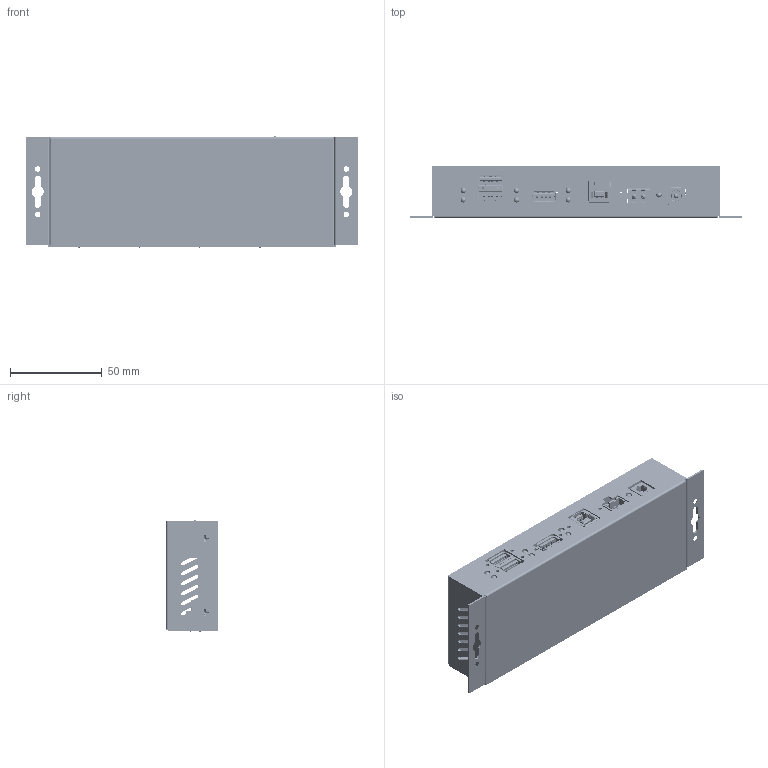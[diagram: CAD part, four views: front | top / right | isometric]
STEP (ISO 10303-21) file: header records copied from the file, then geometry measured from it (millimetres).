
FILE_DESCRIPTION(/* description */ (''),/* implementation_level */ '2;1');
FILE_NAME(/* name */ 'C:/Users/Leo/Desktop/CG-43AB1/CG-43AB1 Model3D LPv1.step',/* time_stamp */ '2021-04-30T14:34:38-04:00',/* author */ (''),/* organization */ (''),/* preprocessor_version */ 'ST-DEVELOPER v18.1',/* originating_system */ 'Autodesk Translation Framework v10.6.0.1341',/* authorisation */ '');
FILE_SCHEMA (('AUTOMOTIVE_DESIGN { 1 0 10303 214 3 1 1 }'));
Products named in the file (1): FusionComponent
Bounding box: 181.2 x 28.3 x 60.74 mm (x, y, z)
Volume: 55387.1 mm3; surface area: 105504.9 mm2
Topology: 8 solids, 116 shells, 10665 faces, 30818 edges, 19875 vertices
Faces by surface type: plane 8080, cylinder 2296, bspline 150, cone 104, sphere 22, torus 13
Full cylindrical faces by diameter (mm): 1.2 x2, 1.35 x1, 1.9 x8, 1.98 x8, 2 x1, 2.35 x16, 2.4 x1, 2.8 x2, 2.85 x2, 2.89 x1, 3 x38, 3.5 x19, 4.765 x4, 5.4 x4
Entity records: 358940 total; most frequent: CARTESIAN_POINT 74636, ORIENTED_EDGE 61580, DIRECTION 56043, EDGE_CURVE 30790, LINE 25269, VECTOR 25269, VERTEX_POINT 19875, AXIS2_PLACEMENT_3D 15387
